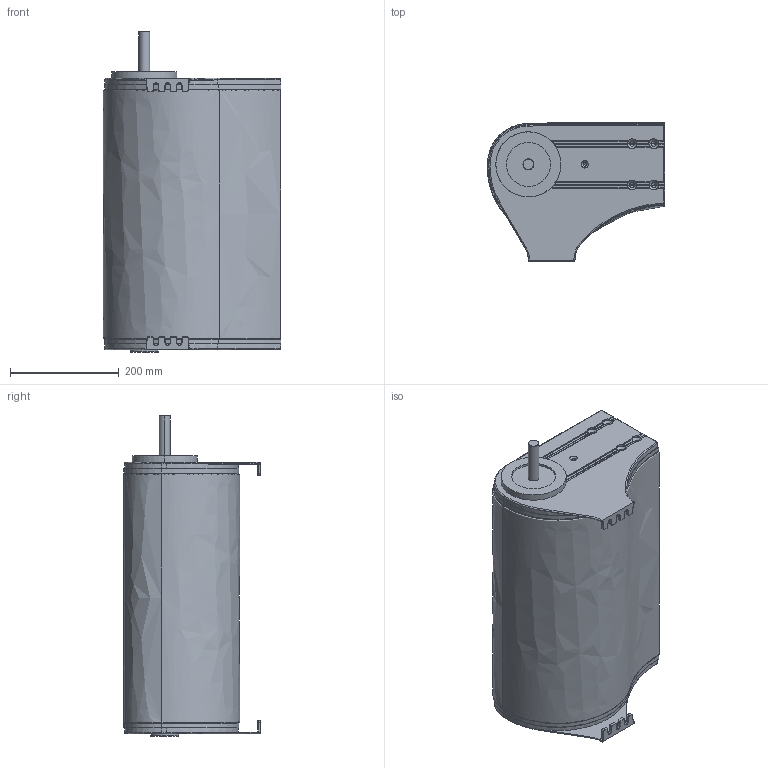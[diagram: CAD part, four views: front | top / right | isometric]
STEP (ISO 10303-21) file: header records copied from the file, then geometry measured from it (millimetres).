
FILE_DESCRIPTION (( 'STEP AP214' ), '1' );
FILE_NAME ('F2 1800 MDG20.step', '2017-04-05T07:30:27', ( '' ), ( '' ), 'SwSTEP 2.0', 'SolidWorks 2015', '' );
FILE_SCHEMA (( 'AUTOMOTIVE_DESIGN' ));
Length unit declared in the file: millimetre
Products named in the file (1): F2 1800 MDG20
Bounding box: 326.6 x 254.22 x 590.55 mm (x, y, z)
Volume: 29465683.8 mm3; surface area: 632333.7 mm2
Topology: 1 solids, 1 shells, 580 faces, 1484 edges, 887 vertices
Faces by surface type: cylinder 249, plane 152, torus 113, cone 42, bspline 24
Entity records: 19970 total; most frequent: CARTESIAN_POINT 5485, DIRECTION 2992, ORIENTED_EDGE 2920, EDGE_CURVE 1460, AXIS2_PLACEMENT_3D 1191, VERTEX_POINT 887, CIRCLE 634, VECTOR 610
